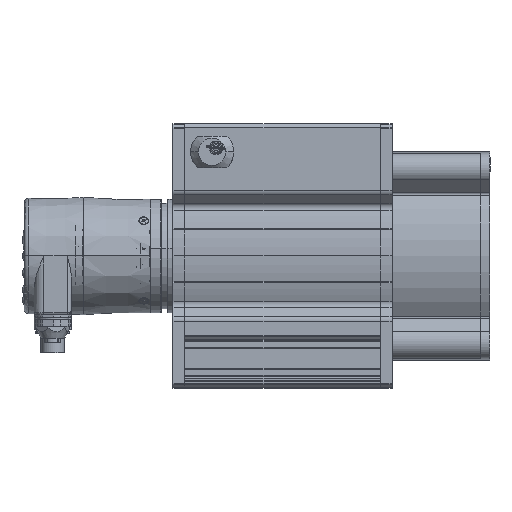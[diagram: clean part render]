
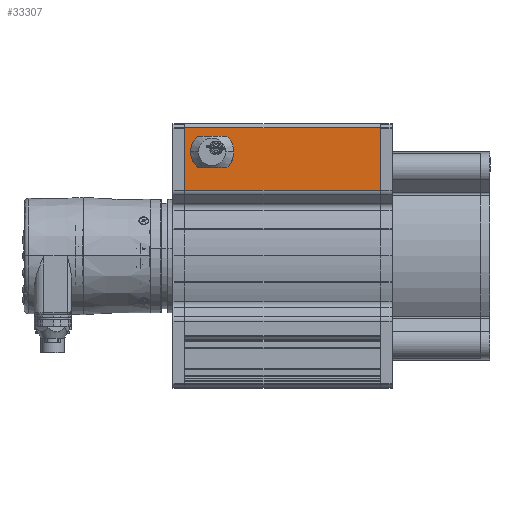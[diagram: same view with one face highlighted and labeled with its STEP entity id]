
A CAD part, top view. The second image highlights one B-rep face of the part: STEP entity #33307.
In plain terms, the highlighted planar face has unit normal (0, 0, 1).
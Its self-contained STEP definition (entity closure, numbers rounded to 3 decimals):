
#1309 = EDGE_CURVE ( 'NONE', #105775, #105086, #92843, .T. ) ;
#13092 = CARTESIAN_POINT ( 'NONE',  ( -234.847, 68.903, 78.008 ) ) ;
#13149 = CARTESIAN_POINT ( 'NONE',  ( -219.497, 68.903, 78.008 ) ) ;
#13532 = DIRECTION ( 'NONE',  ( -1., 0., 0. ) ) ;
#13534 = DIRECTION ( 'NONE',  ( 0., 0., 1. ) ) ;
#13535 = CARTESIAN_POINT ( 'NONE',  ( -229.347, 68.903, 78.008 ) ) ;
#13536 = AXIS2_PLACEMENT_3D ( 'NONE', #13535, #13534, #13532 ) ;
#13538 = CIRCLE ( 'NONE', #13536, 5.5 ) ;
#13561 = CARTESIAN_POINT ( 'NONE',  ( -223.847, 68.903, 78.008 ) ) ;
#13826 = EDGE_CURVE ( 'NONE', #14221, #106323, #56621, .T. ) ;
#14102 = CARTESIAN_POINT ( 'NONE',  ( -222.697, 68.903, 78.008 ) ) ;
#14221 = VERTEX_POINT ( 'NONE', #56787 ) ;
#14285 = DIRECTION ( 'NONE',  ( -1., 0., 0. ) ) ;
#14286 = DIRECTION ( 'NONE',  ( 0., 0., 1. ) ) ;
#14287 = CARTESIAN_POINT ( 'NONE',  ( -237.597, 68.903, 78.008 ) ) ;
#14288 = AXIS2_PLACEMENT_3D ( 'NONE', #14287, #14286, #14285 ) ;
#14289 = CIRCLE ( 'NONE', #14288, 1.6 ) ;
#14354 = CARTESIAN_POINT ( 'NONE',  ( -235.997, 68.903, 78.008 ) ) ;
#14356 = DIRECTION ( 'NONE',  ( -1., 0., 0. ) ) ;
#14357 = DIRECTION ( 'NONE',  ( 0., 0., 1. ) ) ;
#14358 = CARTESIAN_POINT ( 'NONE',  ( -221.097, 68.903, 78.008 ) ) ;
#14359 = AXIS2_PLACEMENT_3D ( 'NONE', #14358, #14357, #14356 ) ;
#14360 = CIRCLE ( 'NONE', #14359, 1.6 ) ;
#17522 = DIRECTION ( 'NONE',  ( 0., 1., 0. ) ) ;
#17523 = VECTOR ( 'NONE', #17522, 1000. ) ;
#17524 = CARTESIAN_POINT ( 'NONE',  ( -143.347, 49.29, 78.008 ) ) ;
#17525 = LINE ( 'NONE', #17524, #17523 ) ;
#18077 = DIRECTION ( 'NONE',  ( 0., 1., 0. ) ) ;
#18078 = VECTOR ( 'NONE', #18077, 1000. ) ;
#18079 = CARTESIAN_POINT ( 'NONE',  ( -243.347, 82.293, 78.008 ) ) ;
#18080 = LINE ( 'NONE', #18079, #18078 ) ;
#20472 = EDGE_CURVE ( 'NONE', #105291, #106175, #95299, .T. ) ;
#31698 = VERTEX_POINT ( 'NONE', #70696 ) ;
#32288 = VERTEX_POINT ( 'NONE', #71307 ) ;
#33001 = ORIENTED_EDGE ( 'NONE', *, *, #1309, .F. ) ;
#33017 = EDGE_CURVE ( 'NONE', #33037, #33044, #71712, .T. ) ;
#33021 = ORIENTED_EDGE ( 'NONE', *, *, #106314, .F. ) ;
#33024 = EDGE_LOOP ( 'NONE', ( #33026, #33021 ) ) ;
#33026 = ORIENTED_EDGE ( 'NONE', *, *, #13826, .F. ) ;
#33037 = VERTEX_POINT ( 'NONE', #71779 ) ;
#33038 = EDGE_LOOP ( 'NONE', ( #33046, #88223, #88352, #88187 ) ) ;
#33044 = VERTEX_POINT ( 'NONE', #71765 ) ;
#33046 = ORIENTED_EDGE ( 'NONE', *, *, #33017, .T. ) ;
#33297 = ORIENTED_EDGE ( 'NONE', *, *, #105782, .F. ) ;
#33304 = EDGE_CURVE ( 'NONE', #31698, #32288, #72189, .T. ) ;
#33307 = ADVANCED_FACE ( 'NONE', ( #72185, #72295, #72294, #72293 ), #72268, .F. ) ;
#33309 = EDGE_LOOP ( 'NONE', ( #33297, #33001 ) ) ;
#56616 = DIRECTION ( 'NONE',  ( -1., 0., 0. ) ) ;
#56618 = DIRECTION ( 'NONE',  ( 0., 0., 1. ) ) ;
#56619 = CARTESIAN_POINT ( 'NONE',  ( -237.597, 68.903, 78.008 ) ) ;
#56620 = AXIS2_PLACEMENT_3D ( 'NONE', #56619, #56618, #56616 ) ;
#56621 = CIRCLE ( 'NONE', #56620, 1.6 ) ;
#56787 = CARTESIAN_POINT ( 'NONE',  ( -239.197, 68.903, 78.008 ) ) ;
#70696 = CARTESIAN_POINT ( 'NONE',  ( -143.347, 49.29, 78.008 ) ) ;
#71307 = CARTESIAN_POINT ( 'NONE',  ( -243.347, 49.29, 78.008 ) ) ;
#71709 = DIRECTION ( 'NONE',  ( -1., 0., 0. ) ) ;
#71710 = VECTOR ( 'NONE', #71709, 1000. ) ;
#71711 = CARTESIAN_POINT ( 'NONE',  ( -243.347, 81.43, 78.008 ) ) ;
#71712 = LINE ( 'NONE', #71711, #71710 ) ;
#71765 = CARTESIAN_POINT ( 'NONE',  ( -243.347, 81.43, 78.008 ) ) ;
#71779 = CARTESIAN_POINT ( 'NONE',  ( -143.347, 81.43, 78.008 ) ) ;
#72185 = FACE_BOUND ( 'NONE', #33309, .T. ) ;
#72186 = DIRECTION ( 'NONE',  ( -1., 0., 0. ) ) ;
#72187 = VECTOR ( 'NONE', #72186, 1000. ) ;
#72188 = CARTESIAN_POINT ( 'NONE',  ( -243.347, 49.29, 78.008 ) ) ;
#72189 = LINE ( 'NONE', #72188, #72187 ) ;
#72257 = DIRECTION ( 'NONE',  ( -1., 0., 0. ) ) ;
#72260 = DIRECTION ( 'NONE',  ( 0., 0., -1. ) ) ;
#72261 = CARTESIAN_POINT ( 'NONE',  ( -243.347, 49.29, 78.008 ) ) ;
#72263 = AXIS2_PLACEMENT_3D ( 'NONE', #72261, #72260, #72257 ) ;
#72268 = PLANE ( 'NONE',  #72263 ) ;
#72293 = FACE_BOUND ( 'NONE', #88181, .T. ) ;
#72294 = FACE_OUTER_BOUND ( 'NONE', #33038, .T. ) ;
#72295 = FACE_BOUND ( 'NONE', #33024, .T. ) ;
#88180 = EDGE_CURVE ( 'NONE', #31698, #33037, #17525, .T. ) ;
#88181 = EDGE_LOOP ( 'NONE', ( #92771, #92839 ) ) ;
#88187 = ORIENTED_EDGE ( 'NONE', *, *, #88180, .T. ) ;
#88223 = ORIENTED_EDGE ( 'NONE', *, *, #88427, .F. ) ;
#88352 = ORIENTED_EDGE ( 'NONE', *, *, #33304, .F. ) ;
#88427 = EDGE_CURVE ( 'NONE', #32288, #33044, #18080, .T. ) ;
#92771 = ORIENTED_EDGE ( 'NONE', *, *, #106320, .F. ) ;
#92839 = ORIENTED_EDGE ( 'NONE', *, *, #20472, .F. ) ;
#92838 = DIRECTION ( 'NONE',  ( -1., 0., 0. ) ) ;
#92840 = DIRECTION ( 'NONE',  ( 0., 0., 1. ) ) ;
#92841 = CARTESIAN_POINT ( 'NONE',  ( -229.347, 68.903, 78.008 ) ) ;
#92842 = AXIS2_PLACEMENT_3D ( 'NONE', #92841, #92840, #92838 ) ;
#92843 = CIRCLE ( 'NONE', #92842, 5.5 ) ;
#95294 = DIRECTION ( 'NONE',  ( -1., 0., 0. ) ) ;
#95295 = DIRECTION ( 'NONE',  ( 0., 0., 1. ) ) ;
#95297 = CARTESIAN_POINT ( 'NONE',  ( -221.097, 68.903, 78.008 ) ) ;
#95298 = AXIS2_PLACEMENT_3D ( 'NONE', #95297, #95295, #95294 ) ;
#95299 = CIRCLE ( 'NONE', #95298, 1.6 ) ;
#105086 = VERTEX_POINT ( 'NONE', #13092 ) ;
#105291 = VERTEX_POINT ( 'NONE', #13149 ) ;
#105775 = VERTEX_POINT ( 'NONE', #13561 ) ;
#105782 = EDGE_CURVE ( 'NONE', #105086, #105775, #13538, .T. ) ;
#106175 = VERTEX_POINT ( 'NONE', #14102 ) ;
#106314 = EDGE_CURVE ( 'NONE', #106323, #14221, #14289, .T. ) ;
#106320 = EDGE_CURVE ( 'NONE', #106175, #105291, #14360, .T. ) ;
#106323 = VERTEX_POINT ( 'NONE', #14354 ) ;
